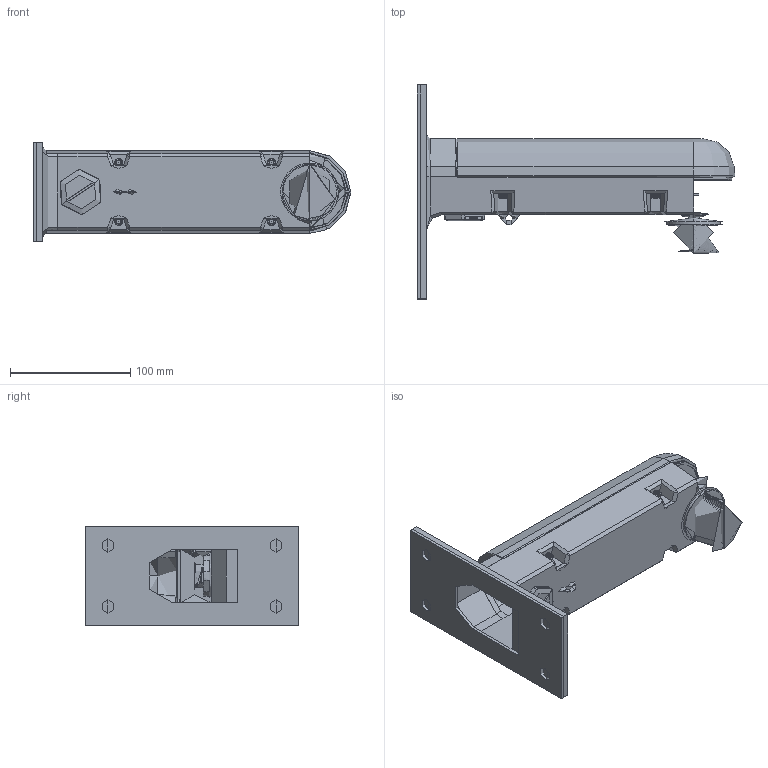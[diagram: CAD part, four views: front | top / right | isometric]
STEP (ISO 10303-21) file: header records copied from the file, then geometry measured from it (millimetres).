
FILE_DESCRIPTION (( 'STEP AP203' ), '1' );
FILE_NAME ('320A214 Wall mount pendant mount .STEP', '2021-09-21T15:35:13', ( '' ), ( '' ), 'SwSTEP 2.0', 'SolidWorks 2021', '' );
FILE_SCHEMA (( 'CONFIG_CONTROL_DESIGN' ));
Length unit declared in the file: inch
Products named in the file (12): 400A210P02 Screw, SHC Captive, 8-32 x .875 _400A210P02 Screw, SCH Captive, 8-32 x .875 ; 202A168 P01 Dome Assy to housing 7 in x .046 dia. cable, 2 eyelets; 320A213, Panasonic PWM40, Wall Mount Gasket; 320A214 Wall mount pendant mount ; 400A201P95 Screw, Pan Hd. 8-32 x .25, SS, PHILLIPS_91772A190; Eyelet paart # 2081-01.5 used in Tether for leatherneck; Tether cable .0468 in dia 6.25 in long; 320A032 Panasonic, Wall Mt. Gasket; 320A053P01, Plug, .750 NPT, Liquid Tight, heyco-3547b; 320A054P01, Nut, .750 NPT, Liquid Tight, heyco-8465-8466; 320A212, Panasonic PWM40, Wall Mount Cover; 320A211, Panasonic PWM40, Wall Mount Base
Assembly tree (15 placements, depth 3):
  320A214 Wall mount pendant mount 
    320A211, Panasonic PWM40, Wall Mount Base
    320A213, Panasonic PWM40, Wall Mount Gasket
    400A210P02 Screw, SHC Captive, 8-32 x .875 _400A210P02 Screw, SCH Captive, 8-32 x .875   x4
    320A053P01, Plug, .750 NPT, Liquid Tight, heyco-3547b
    320A054P01, Nut, .750 NPT, Liquid Tight, heyco-8465-8466
    202A168 P01 Dome Assy to housing 7 in x .046 dia. cable, 2 eyelets
      Eyelet paart # 2081-01.5 used in Tether for leatherneck  x2
      Tether cable .0468 in dia 6.25 in long
    400A201P95 Screw, Pan Hd. 8-32 x .25, SS, PHILLIPS_91772A190
    320A212, Panasonic PWM40, Wall Mount Cover
    320A032 Panasonic, Wall Mt. Gasket
Bounding box: 264.05 x 177.8 x 82.55 mm (x, y, z)
Topology: 11 solids, 19 shells, 2342 faces, 6351 edges, 4074 vertices
Faces by surface type: plane 1230, cylinder 605, bspline 240, cone 227, torus 38, sphere 2
Full cylindrical faces by diameter (mm): 8.179 x1
Entity records: 113002 total; most frequent: CARTESIAN_POINT 75358, ORIENTED_EDGE 8622, DIRECTION 5743, EDGE_CURVE 4339, VERTEX_POINT 2760, LINE 2037, VECTOR 2037, AXIS2_PLACEMENT_3D 1853
